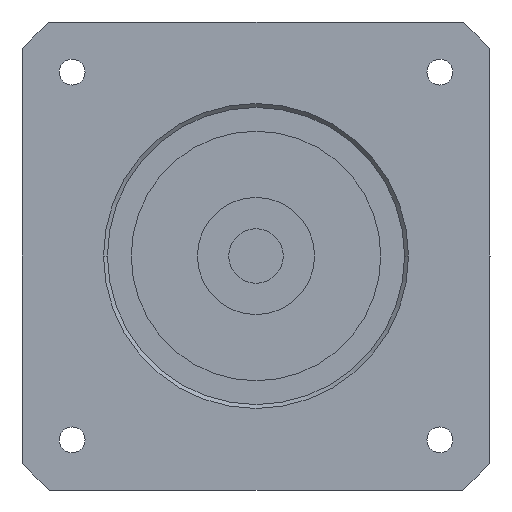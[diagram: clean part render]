
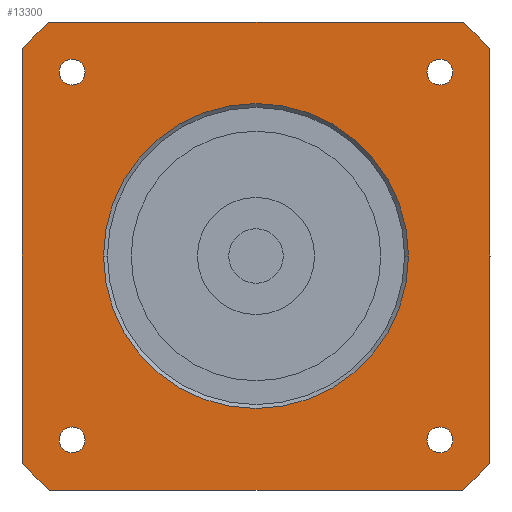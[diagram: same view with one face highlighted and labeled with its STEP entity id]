
A CAD part, left-side view. The second image highlights one B-rep face of the part: STEP entity #13300.
In plain terms, the highlighted planar face has unit normal (-1, 0, 0) as drawn and (0, 0, -1) by its records, which use the part's own axes.
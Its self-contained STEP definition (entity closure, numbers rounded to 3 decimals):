
#8700=CARTESIAN_POINT('',(23.571,25.221,-34.));
#8710=VERTEX_POINT('',#8700);
#8870=CARTESIAN_POINT('',(23.571,21.921,-34.));
#8880=VERTEX_POINT('',#8870);
#8910=CARTESIAN_POINT('',(23.571,23.571,-34.));
#8920=DIRECTION('',(0.,0.,1.));
#8930=DIRECTION('',(0.,1.,0.));
#8940=AXIS2_PLACEMENT_3D('',#8910,#8920,#8930);
#8950=CIRCLE('',#8940,1.65);
#8960=EDGE_CURVE('',#8880,#8710,#8950,.T.);
#9120=CARTESIAN_POINT('',(-23.571,25.221,-34.));
#9130=VERTEX_POINT('',#9120);
#9290=CARTESIAN_POINT('',(-23.571,21.921,-34.));
#9300=VERTEX_POINT('',#9290);
#9330=CARTESIAN_POINT('',(-23.571,23.571,-34.));
#9340=DIRECTION('',(0.,0.,1.));
#9350=DIRECTION('',(0.,1.,0.));
#9360=AXIS2_PLACEMENT_3D('',#9330,#9340,#9350);
#9370=CIRCLE('',#9360,1.65);
#9380=EDGE_CURVE('',#9300,#9130,#9370,.T.);
#11780=CARTESIAN_POINT('',(19.55,0.,-34.));
#11790=VERTEX_POINT('',#11780);
#11820=CARTESIAN_POINT('',(0.,0.,
-34.));
#11830=DIRECTION('',(0.,0.,1.));
#11840=DIRECTION('',(0.,1.,0.));
#11850=AXIS2_PLACEMENT_3D('',#11820,#11830,#11840);
#11860=CIRCLE('',#11850,19.55);
#11870=CARTESIAN_POINT('',(0.,19.55,-34.));
#11880=VERTEX_POINT('',#11870);
#11890=EDGE_CURVE('',#11790,#11880,#11860,.T.);
#11910=CARTESIAN_POINT('',(-19.55,0.,-34.));
#11920=VERTEX_POINT('',#11910);
#11930=EDGE_CURVE('',#11880,#11920,#11860,.T.);
#12090=CARTESIAN_POINT('',(30.,-30.,-34.));
#12100=DIRECTION('',(0.,0.,1.));
#12110=DIRECTION('',(0.,1.,0.));
#12120=AXIS2_PLACEMENT_3D('',#12090,#12100,#12110);
#12130=PLANE('',#12120);
#12140=CARTESIAN_POINT('',(-23.571,-23.571,-34.));
#12150=DIRECTION('',(0.,0.,1.));
#12160=DIRECTION('',(0.,1.,0.));
#12170=AXIS2_PLACEMENT_3D('',#12140,#12150,#12160);
#12180=CIRCLE('',#12170,1.65);
#12190=CARTESIAN_POINT('',(-23.571,-21.921,-34.));
#12200=VERTEX_POINT('',#12190);
#12210=CARTESIAN_POINT('',(-23.571,-25.221,-34.));
#12220=VERTEX_POINT('',#12210);
#12230=EDGE_CURVE('',#12200,#12220,#12180,.T.);
#12240=ORIENTED_EDGE('',*,*,#12230,.T.);
#12250=EDGE_CURVE('',#12220,#12200,#12180,.T.);
#12260=ORIENTED_EDGE('',*,*,#12250,.T.);
#12270=EDGE_LOOP('',(#12260,#12240));
#12280=FACE_BOUND('',#12270,.T.);
#12290=CARTESIAN_POINT('',(23.571,-23.571,-34.));
#12300=DIRECTION('',(0.,0.,1.));
#12310=DIRECTION('',(0.,1.,0.));
#12320=AXIS2_PLACEMENT_3D('',#12290,#12300,#12310);
#12330=CIRCLE('',#12320,1.65);
#12340=CARTESIAN_POINT('',(23.571,-21.921,-34.));
#12350=VERTEX_POINT('',#12340);
#12360=CARTESIAN_POINT('',(23.571,-25.221,-34.));
#12370=VERTEX_POINT('',#12360);
#12380=EDGE_CURVE('',#12350,#12370,#12330,.T.);
#12390=ORIENTED_EDGE('',*,*,#12380,.T.);
#12400=EDGE_CURVE('',#12370,#12350,#12330,.T.);
#12410=ORIENTED_EDGE('',*,*,#12400,.T.);
#12420=EDGE_LOOP('',(#12410,#12390));
#12430=FACE_BOUND('',#12420,.T.);
#12440=EDGE_CURVE('',#8710,#8880,#8950,.T.);
#12450=ORIENTED_EDGE('',*,*,#12440,.T.);
#12460=ORIENTED_EDGE('',*,*,#8960,.T.);
#12470=EDGE_LOOP('',(#12460,#12450));
#12480=FACE_BOUND('',#12470,.T.);
#12490=EDGE_CURVE('',#9130,#9300,#9370,.T.);
#12500=ORIENTED_EDGE('',*,*,#12490,.T.);
#12510=ORIENTED_EDGE('',*,*,#9380,.T.);
#12520=EDGE_LOOP('',(#12510,#12500));
#12530=FACE_BOUND('',#12520,.T.);
#12540=EDGE_CURVE('',#11920,#11790,#11860,.T.);
#12550=ORIENTED_EDGE('',*,*,#12540,.T.);
#12560=ORIENTED_EDGE('',*,*,#11930,.T.);
#12570=ORIENTED_EDGE('',*,*,#11890,.T.);
#12580=EDGE_LOOP('',(#12570,#12560,#12550));
#12590=FACE_BOUND('',#12580,.T.);
#12600=CARTESIAN_POINT('',(0.,0.,
-34.));
#12610=DIRECTION('',(0.,0.,1.));
#12620=DIRECTION('',(0.,1.,0.));
#12630=AXIS2_PLACEMENT_3D('',#12600,#12610,#12620);
#12640=CIRCLE('',#12630,40.);
#12650=CARTESIAN_POINT('',(-26.458,30.,-34.));
#12660=VERTEX_POINT('',#12650);
#12670=CARTESIAN_POINT('',(-30.,26.458,-34.));
#12680=VERTEX_POINT('',#12670);
#12690=EDGE_CURVE('',#12660,#12680,#12640,.T.);
#12700=ORIENTED_EDGE('',*,*,#12690,.F.);
#12710=CARTESIAN_POINT('',(-30.,30.,-34.));
#12720=DIRECTION('',(0.,-1.,0.));
#12730=VECTOR('',#12720,1000.);
#12740=LINE('',#12710,#12730);
#12750=CARTESIAN_POINT('',(-30.,-26.458,-34.));
#12760=VERTEX_POINT('',#12750);
#12770=EDGE_CURVE('',#12680,#12760,#12740,.T.);
#12780=ORIENTED_EDGE('',*,*,#12770,.F.);
#12790=CARTESIAN_POINT('',(0.,0.,
-34.));
#12800=DIRECTION('',(0.,0.,1.));
#12810=DIRECTION('',(0.,1.,0.));
#12820=AXIS2_PLACEMENT_3D('',#12790,#12800,#12810);
#12830=CIRCLE('',#12820,40.);
#12840=CARTESIAN_POINT('',(-26.458,-30.,-34.));
#12850=VERTEX_POINT('',#12840);
#12860=EDGE_CURVE('',#12760,#12850,#12830,.T.);
#12870=ORIENTED_EDGE('',*,*,#12860,.F.);
#12880=CARTESIAN_POINT('',(-30.,-30.,-34.));
#12890=DIRECTION('',(1.,0.,0.));
#12900=VECTOR('',#12890,1000.);
#12910=LINE('',#12880,#12900);
#12920=CARTESIAN_POINT('',(26.458,-30.,-34.));
#12930=VERTEX_POINT('',#12920);
#12940=EDGE_CURVE('',#12850,#12930,#12910,.T.);
#12950=ORIENTED_EDGE('',*,*,#12940,.F.);
#12960=CARTESIAN_POINT('',(0.,0.,
-34.));
#12970=DIRECTION('',(0.,0.,1.));
#12980=DIRECTION('',(0.,1.,0.));
#12990=AXIS2_PLACEMENT_3D('',#12960,#12970,#12980);
#13000=CIRCLE('',#12990,40.);
#13010=CARTESIAN_POINT('',(30.,-26.458,-34.));
#13020=VERTEX_POINT('',#13010);
#13030=EDGE_CURVE('',#12930,#13020,#13000,.T.);
#13040=ORIENTED_EDGE('',*,*,#13030,.F.);
#13050=CARTESIAN_POINT('',(30.,-30.,-34.));
#13060=DIRECTION('',(0.,1.,0.));
#13070=VECTOR('',#13060,1000.);
#13080=LINE('',#13050,#13070);
#13090=CARTESIAN_POINT('',(30.,26.458,-34.));
#13100=VERTEX_POINT('',#13090);
#13110=EDGE_CURVE('',#13020,#13100,#13080,.T.);
#13120=ORIENTED_EDGE('',*,*,#13110,.F.);
#13130=CARTESIAN_POINT('',(0.,0.,
-34.));
#13140=DIRECTION('',(0.,0.,1.));
#13150=DIRECTION('',(0.,1.,0.));
#13160=AXIS2_PLACEMENT_3D('',#13130,#13140,#13150);
#13170=CIRCLE('',#13160,40.);
#13180=CARTESIAN_POINT('',(26.458,30.,-34.));
#13190=VERTEX_POINT('',#13180);
#13200=EDGE_CURVE('',#13100,#13190,#13170,.T.);
#13210=ORIENTED_EDGE('',*,*,#13200,.F.);
#13220=CARTESIAN_POINT('',(30.,30.,-34.));
#13230=DIRECTION('',(-1.,0.,0.));
#13240=VECTOR('',#13230,1000.);
#13250=LINE('',#13220,#13240);
#13260=EDGE_CURVE('',#13190,#12660,#13250,.T.);
#13270=ORIENTED_EDGE('',*,*,#13260,.F.);
#13280=EDGE_LOOP('',(#13270,#13210,#13120,#13040,#12950,#12870,#12780,
#12700));
#13290=FACE_OUTER_BOUND('',#13280,.T.);
#13300=ADVANCED_FACE('',(#12280,#12430,#12480,#12530,#12590,#13290),
#12130,.F.);
